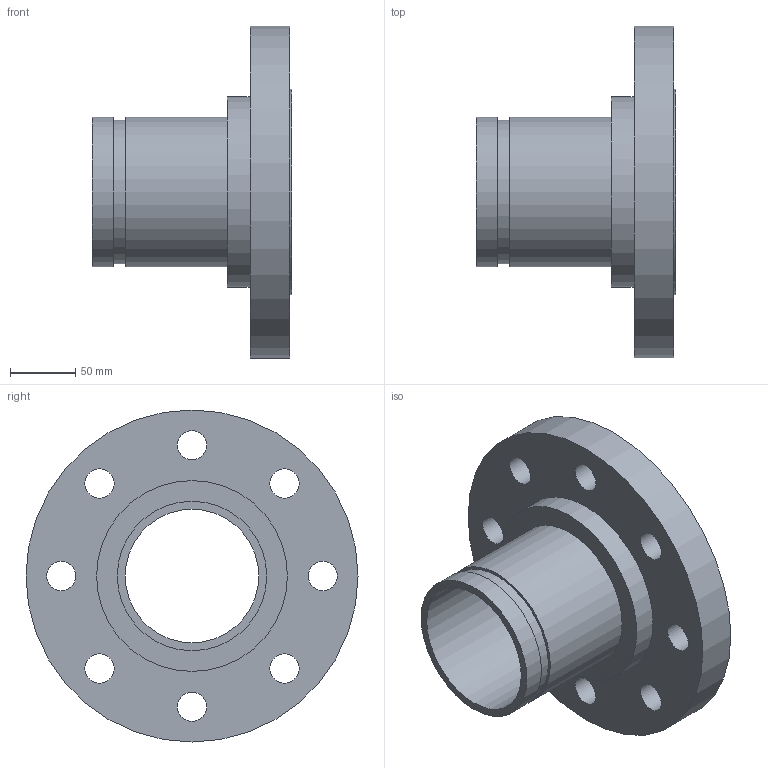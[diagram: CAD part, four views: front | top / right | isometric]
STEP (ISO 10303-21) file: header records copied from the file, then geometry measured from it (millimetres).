
FILE_DESCRIPTION(/* description */ ('VIC FLANGE ADAPTER No 46R','CAx-IF Rec.Pracs.---Representation and Presentation of Product Manufacturing Information (PMI)---4.0---2014-10-13'),/* implementation_level */ '2;1');
FILE_NAME(/* name */ 'C:\Users\kkamble\AppData\Roaming\Autodesk\ApplicationPlugins\Back Up\Victaulic_IPS_Flanged Adapter Nipple_CL 300 RF_No 46R (OGSxFLG)\Victaulic_IPS_Flanged Adapter Nipple_CL 300 RF_No 46R (OGSxFLG)_4 (100).stp',/* time_stamp */ '2020-07-26T22:25:50+06:00',/* author */ ('CONSTRUCTION PIPING SERVICES'),/* organization */ ('Victaulic'),/* preprocessor_version */ 'ST-DEVELOPER v17.2',/* originating_system */ 'Autodesk Inventor 2019',/* authorisation */ '');
FILE_SCHEMA (('AP242_MANAGED_MODEL_BASED_3D_ENGINEERING_MIM_LF { 1 0 10303 442 1 1 4 }'));
Length unit declared in the file: inch
Products named in the file (1): 046R-04.0
Bounding box: 152.4 x 254 x 254 mm (x, y, z)
Volume: 1559281.8 mm3; surface area: 215880.8 mm2
Topology: 1 solids, 1 shells, 22 faces, 59 edges, 44 vertices
Faces by surface type: cylinder 15, plane 7
Full cylindrical faces by diameter (mm): 22.352 x8, 102.26 x1, 110.084 x1, 114.3 x2, 146.05 x1, 157.226 x1, 254 x1
Entity records: 849 total; most frequent: DIRECTION 149, CARTESIAN_POINT 126, ORIENTED_EDGE 118, AXIS2_PLACEMENT_3D 67, EDGE_CURVE 59, EDGE_LOOP 45, CIRCLE 44, VERTEX_POINT 44
